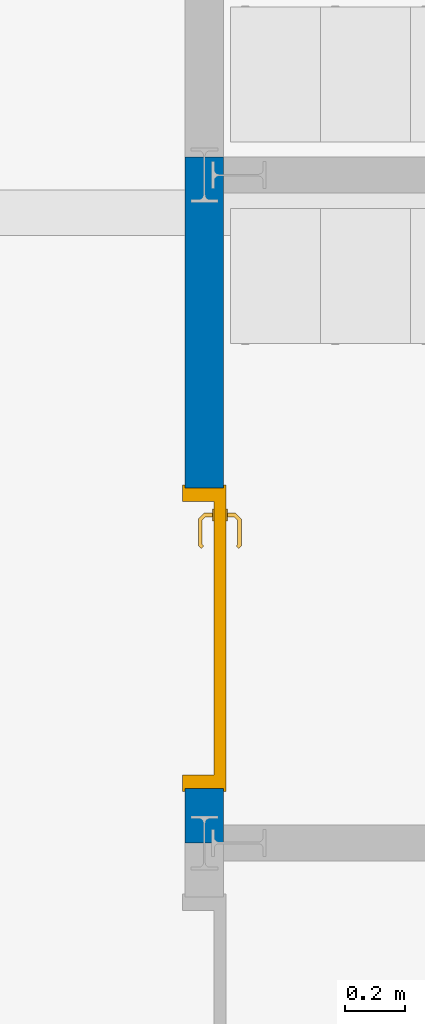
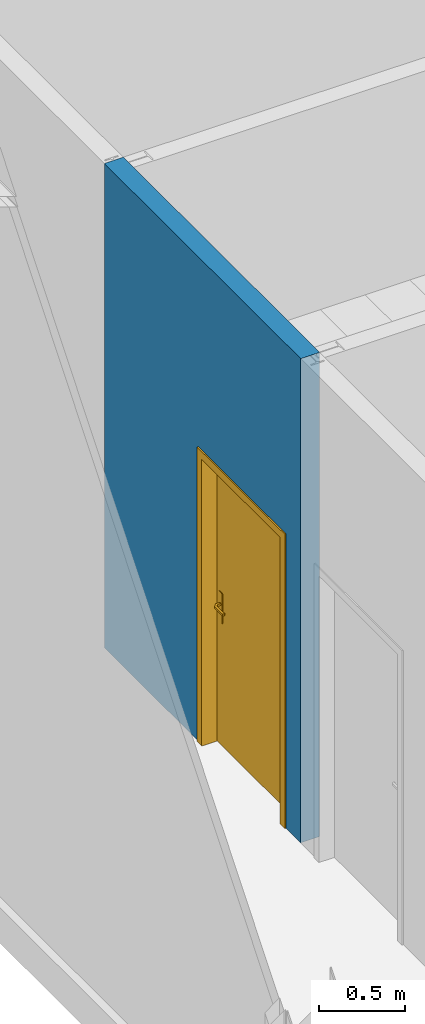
# One storey, part 49 of 137: 1 door, 1 wall, 1 opening.
"""IFC2X3 building model written with IfcOpenShell, lengths in centimetres."""

from ifc_helpers import new_model, entity, si_unit, converted_unit, derived_unit, direction, frame, frame_2d, origin, place, context, subcontext, project, spatial, rectangle, extrude, faceted_brep, source, transform, mapped, material, material_list, layer, layer_set, layer_usage, type_object, type_shapes, element, fill, save


model = new_model("IFC2X3")

# Units and contexts
model_context = context("Model", 3, precision=0.001, world=origin(), true_north=direction((6.12303176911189e-17, 1.0)))
body_context = subcontext(model_context, "Body", "Model", "MODEL_VIEW")
ifc_project = project(units=[si_unit("LENGTHUNIT", "METRE", prefix="CENTI"), si_unit("AREAUNIT", "SQUARE_METRE"), si_unit("VOLUMEUNIT", "CUBIC_METRE"), converted_unit("PLANEANGLEUNIT", "DEGREE", entity("IfcRatioMeasure", 0.0174532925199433), si_unit("PLANEANGLEUNIT", "RADIAN"), dimensions=[0, 0, 0, 0, 0, 0, 0]), si_unit("MASSUNIT", "GRAM", prefix="KILO"), si_unit("TIMEUNIT", "SECOND"), si_unit("FREQUENCYUNIT", "HERTZ"), si_unit("THERMODYNAMICTEMPERATUREUNIT", "DEGREE_CELSIUS"), derived_unit("THERMALTRANSMITTANCEUNIT", [(si_unit("MASSUNIT", "GRAM", prefix="KILO"), 1), (si_unit("THERMODYNAMICTEMPERATUREUNIT", "KELVIN"), -1), (si_unit("TIMEUNIT", "SECOND"), -3)]), derived_unit("VOLUMETRICFLOWRATEUNIT", [(si_unit("LENGTHUNIT", "METRE"), 3), (si_unit("TIMEUNIT", "SECOND"), -1)]), si_unit("ELECTRICCURRENTUNIT", "AMPERE"), si_unit("ELECTRICVOLTAGEUNIT", "VOLT"), si_unit("POWERUNIT", "WATT"), si_unit("FORCEUNIT", "NEWTON", prefix="KILO"), si_unit("ILLUMINANCEUNIT", "LUX"), si_unit("LUMINOUSFLUXUNIT", "LUMEN"), si_unit("LUMINOUSINTENSITYUNIT", "CANDELA"), derived_unit("USERDEFINED", [(si_unit("MASSUNIT", "GRAM", prefix="KILO"), -1), (si_unit("LENGTHUNIT", "METRE"), -2), (si_unit("TIMEUNIT", "SECOND"), 3), (si_unit("LUMINOUSFLUXUNIT", "LUMEN"), 1)]), derived_unit("LINEARVELOCITYUNIT", [(si_unit("LENGTHUNIT", "METRE"), 1), (si_unit("TIMEUNIT", "SECOND"), -1)]), si_unit("PRESSUREUNIT", "PASCAL"), derived_unit("USERDEFINED", [(si_unit("LENGTHUNIT", "METRE"), -2), (si_unit("MASSUNIT", "GRAM", prefix="KILO"), 1), (si_unit("TIMEUNIT", "SECOND"), -2)])], contexts=[model_context])

# Site, building, storey
site_placement = place(None, frame((8.62739174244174, -249.285249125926, 0.0)))
site = spatial("IfcSite", under=ifc_project, at=site_placement, Name="Default", CompositionType="ELEMENT")
building_placement = place(site_placement, origin())
building = spatial("IfcBuilding", under=site, at=building_placement, CompositionType="ELEMENT")
storey_placement = place(building_placement, origin())
storey = spatial("IfcBuildingStorey", under=building, at=storey_placement, Name="RDC", CompositionType="ELEMENT", Elevation=-8.82465566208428e-11)

# Wall, opening, door
ifc_material_1 = material(Name="Tôle/Doublage")
ifc_layer_1 = layer(ifc_material_1, 2.0)
ifc_material_2 = material(Name="Laine minérale")
ifc_layer_2 = layer(ifc_material_2, 9.5)
ifc_material_3 = material(Name="Plâtre_MU")
ifc_layer_3 = layer(ifc_material_3, 1.25)
ifc_layer_set = layer_set([ifc_layer_1, ifc_layer_2, ifc_layer_3], Name="Mur de base:PLA 1.25 + ISO 9.5 + MET 4")
ifc_layer_usage = layer_usage(ifc_layer_set, "AXIS2", "POSITIVE", -6.375)
wall_type = type_object("IfcWallType", Name="Mur de base:PLA 1.25 + ISO 9.5 + MET 4", PredefinedType="STANDARD", material=ifc_layer_set)
wall_placement = place(storey_placement, frame((1030.27982780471, 2380.48020806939, 0.0), z_axis=(0.0, 0.0, 1.0), x_axis=(0.0, -1.0, 0.0)))
wall = element("IfcWallStandardCase", 1, at=wall_placement, inside=storey, type_object=wall_type, material=ifc_layer_usage, Name="Mur de base:PLA 1.25 + ISO 9.5 + MET 4", ObjectType="Mur de base:PLA 1.25 + ISO 9.5 + MET 4", context=body_context, shape_type="SweptSolid", body=[
    extrude(rectangle(XDim=228.000000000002, YDim=12.7500000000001, at=frame_2d((114.000000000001, 5.41788836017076e-14), x_axis=(-1.0, 0.0))), origin(), (0.0, 0.0, 1.0), 343.000000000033),
])
opening_placement = place(wall_placement, frame((110.0, -6.37499999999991, 0.0)))
opening = element("IfcOpeningElement", 2, at=opening_placement, cuts=wall, Name="Simple(R)_bois_mu:93 x 204 cm:1", ObjectType="Opening", context=body_context, shape_type="SweptSolid", body=[
    extrude(rectangle(XDim=207.499999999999, YDim=99.9999999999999, at=frame_2d((103.749999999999, 50.0), x_axis=(1.0, 0.0))), frame((0.0, 0.0, 0.0), z_axis=(0.0, 1.0, 0.0), x_axis=(0.0, 0.0, 1.0)), (0.0, 0.0, 1.0), 12.75),
])
ifc_material_4 = material(Name="Porte - Poignée")
ifc_material_5 = material(Name="Porte - Cadre")
ifc_material_6 = material(Name="Porte - Panneau")
ifc_material_list_1 = material_list([ifc_material_4, ifc_material_5, ifc_material_6])
ifc_material_list_2 = material_list([ifc_material_4, ifc_material_5, ifc_material_6])
door_style = type_object("IfcDoorStyle", Name="93 x 204 cm", ConstructionType="NOTDEFINED", OperationType="SINGLE_SWING_LEFT", ParameterTakesPrecedence=False, Sizeable=False, material=ifc_material_list_2)
shared_shape = source(origin(), body_context, "Body", "Brep", [
    faceted_brep([(92.2025298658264, 3.69999999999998, 100.778044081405), (91.7974701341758, 3.69999999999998, 100.778044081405), (91.3999999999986, 3.69999999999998, 100.699999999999), (91.4000000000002, 3.69999999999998, 99.3000000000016), (91.7974701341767, 3.69999999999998, 99.2219559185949), (92.2025298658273, 3.69999999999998, 99.2219559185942), (92.6000000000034, 3.69999999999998, 99.2999999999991), (92.600000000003, 3.69999999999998, 100.699999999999), (91.3999999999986, 5.94852045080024, 100.699999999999), (91.3999999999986, 5.94852045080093, 99.3000000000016), (91.7974701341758, 6.11315797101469, 100.778044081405), (92.2025298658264, 6.2809392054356, 100.778044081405), (90.5838906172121, 7.89957845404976, 100.778044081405), (90.4161093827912, 7.49451872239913, 100.778044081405), (82.0793122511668, 7.49451872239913, 100.778044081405), (81.911531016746, 7.89957845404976, 100.778044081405), (81.1451046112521, 7.13315204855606, 100.778044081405), (81.4315250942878, 6.84673156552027, 100.778044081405), (92.600000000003, 6.44557672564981, 100.699999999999), (92.6000000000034, 6.44557672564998, 99.2999999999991), (92.2025298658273, 6.28093920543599, 99.2219559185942), (91.7974701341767, 6.11315797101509, 99.2219559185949), (90.4161093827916, 7.49451872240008, 99.2219559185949), (90.5838906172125, 7.8995784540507, 99.2219559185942), (81.9115310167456, 7.8995784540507, 99.2219559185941), (82.0793122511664, 7.49451872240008, 99.2219559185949), (81.4315250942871, 6.84673156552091, 99.2219559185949), (81.1451046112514, 7.13315204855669, 99.2219559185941), (90.2514718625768, 7.09704858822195, 100.699999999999), (90.2514718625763, 7.09704858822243, 99.3000000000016), (90.7485281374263, 8.29704858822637, 100.699999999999), (90.7485281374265, 8.29704858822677, 99.2999999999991), (86.247710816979, 7.09704858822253, 100.699999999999), (82.2439497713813, 7.09704858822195, 100.699999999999), (82.2439497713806, 7.09704858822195, 99.3000000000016), (86.247710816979, 7.09704858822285, 99.3000000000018), (86.2477108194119, 7.71249275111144, 100.787811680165), (85.7399422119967, 8.29704858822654, 100.699999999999), (81.7468934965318, 8.29704858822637, 100.699999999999), (86.7554791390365, 8.29704858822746, 99.2999999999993), (81.7468934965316, 8.29704858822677, 99.2999999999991), (86.2477107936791, 7.71249274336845, 99.2121883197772), (80.8640507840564, 7.41420587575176, 100.699999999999), (80.8640507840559, 7.41420587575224, 99.2999999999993), (81.7125789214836, 6.5656777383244, 99.3000000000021), (81.7125789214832, 6.56567773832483, 100.699999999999)], [[[0, 1, 2, 3, 4, 5, 6, 7]], [[8, 9, 3, 2]], [[1, 10, 8, 2]], [[1, 0, 11, 12, 13, 10]], [[14, 15, 16, 17]], [[7, 18, 11, 0]], [[18, 7, 6, 19]], [[6, 5, 20, 19]], [[5, 4, 21, 22, 23, 20]], [[24, 25, 26, 27]], [[4, 3, 9, 21]], [[28, 29, 9, 8]], [[8, 10, 13, 28]], [[18, 30, 12, 11]], [[31, 30, 18, 19]], [[19, 20, 23, 31]], [[21, 9, 29, 22]], [[29, 28, 32, 33, 34, 35]], [[36, 32, 13]], [[37, 38, 15]], [[37, 12, 30]], [[36, 12, 37]], [[14, 32, 36]], [[36, 15, 14]], [[28, 13, 32]], [[32, 14, 33]], [[12, 36, 13]], [[15, 36, 37]], [[30, 31, 39, 40, 38, 37]], [[23, 41, 39]], [[24, 39, 41]], [[39, 31, 23]], [[39, 24, 40]], [[22, 35, 41]], [[41, 23, 22]], [[41, 35, 25]], [[35, 22, 29]], [[34, 25, 35]], [[24, 41, 25]], [[17, 16, 42, 43, 27, 26, 44, 45]], [[45, 44, 34, 33]], [[33, 14, 17, 45]], [[15, 38, 42, 16]], [[43, 42, 38, 40]], [[24, 27, 43, 40]], [[34, 44, 26, 25]]]),
    faceted_brep([(91.7974701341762, -1.30000000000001, 100.778044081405), (92.2025298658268, -1.30000000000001, 100.778044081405), (92.6000000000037, -1.30000000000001, 100.699999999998), (92.6000000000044, -1.30000000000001, 99.2999999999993), (92.2025298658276, -1.30000000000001, 99.2219559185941), (91.797470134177, -1.30000000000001, 99.2219559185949), (91.3999999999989, -1.30000000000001, 99.3000000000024), (91.3999999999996, -1.30000000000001, 100.699999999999), (92.2025298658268, -3.90045754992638, 100.778044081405), (92.6000000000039, -4.06509507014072, 100.699999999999), (91.7974701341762, -3.73267631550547, 100.778044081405), (90.4298602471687, -5.10028620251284, 100.778044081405), (90.5976414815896, -5.50534593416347, 100.778044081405), (81.9142453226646, -5.50534593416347, 100.778044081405), (82.0820265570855, -5.10028620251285, 100.778044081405), (81.4342394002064, -4.4524990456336, 100.778044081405), (81.1478189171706, -4.73891952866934, 100.778044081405), (91.3999999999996, -3.56803879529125, 100.699999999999), (91.3999999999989, -3.56803879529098, 99.3000000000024), (91.797470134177, -3.7326763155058, 99.2219559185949), (92.2025298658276, -3.9004575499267, 99.2219559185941), (90.5976414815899, -5.50534593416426, 99.2219559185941), (90.429860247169, -5.10028620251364, 99.2219559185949), (82.0820265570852, -5.10028620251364, 99.2219559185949), (81.9142453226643, -5.50534593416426, 99.2219559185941), (81.14781891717, -4.73891952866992, 99.2219559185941), (81.4342394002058, -4.45249904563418, 99.2219559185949), (92.6000000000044, -4.06509507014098, 99.2999999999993), (90.762279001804, -5.90281606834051, 100.699999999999), (90.2652227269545, -4.70281606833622, 100.699999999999), (90.2652227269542, -4.70281606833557, 99.3000000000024), (90.7622790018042, -5.90281606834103, 99.2999999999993), (86.2559433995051, -5.31828027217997, 100.787811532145), (86.769230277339, -5.90281606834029, 100.699999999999), (81.7496078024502, -5.90281606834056, 100.699999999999), (86.255943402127, -4.70281606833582, 100.699999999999), (82.2466640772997, -4.70281606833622, 100.699999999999), (86.2559436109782, -4.70281606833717, 99.3000000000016), (82.2466640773, -4.70281606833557, 99.3000000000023), (86.2559434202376, -5.31828027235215, 99.2121884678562), (85.7426572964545, -5.90281606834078, 99.2999999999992), (81.74960780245, -5.90281606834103, 99.2999999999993), (81.7152932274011, -4.17144521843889, 99.3000000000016), (80.8667650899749, -5.01997335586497, 99.2999999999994), (80.8667650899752, -5.01997335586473, 100.699999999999), (81.7152932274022, -4.17144521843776, 100.699999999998)], [[[0, 1, 2, 3, 4, 5, 6, 7]], [[2, 1, 8, 9]], [[1, 0, 10, 11, 12, 8]], [[13, 14, 15, 16]], [[0, 7, 17, 10]], [[18, 17, 7, 6]], [[5, 19, 18, 6]], [[5, 4, 20, 21, 22, 19]], [[23, 24, 25, 26]], [[3, 27, 20, 4]], [[9, 27, 3, 2]], [[9, 8, 12, 28]], [[10, 17, 29, 11]], [[30, 29, 17, 18]], [[18, 19, 22, 30]], [[20, 27, 31, 21]], [[28, 31, 27, 9]], [[12, 32, 33]], [[13, 33, 32]], [[33, 28, 12]], [[33, 13, 34]], [[11, 35, 32]], [[32, 12, 11]], [[32, 35, 14]], [[35, 11, 29]], [[36, 14, 35]], [[13, 32, 14]], [[29, 30, 37, 38, 36, 35]], [[39, 37, 22]], [[40, 41, 24]], [[40, 21, 31]], [[39, 21, 40]], [[23, 37, 39]], [[39, 24, 23]], [[30, 22, 37]], [[37, 23, 38]], [[21, 39, 22]], [[24, 39, 40]], [[31, 28, 33, 34, 41, 40]], [[42, 26, 25, 43, 44, 16, 15, 45]], [[13, 16, 44, 34]], [[36, 45, 15, 14]], [[42, 45, 36, 38]], [[38, 23, 26, 42]], [[24, 41, 43, 25]], [[44, 43, 41, 34]]]),
    faceted_brep([(92.0, 3.19999999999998, 86.4641016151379), (93.0352761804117, 3.19999999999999, 86.6003983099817), (94.0, 3.19999999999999, 87.0), (94.0, 3.19999999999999, 108.0), (93.0352761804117, 3.19999999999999, 108.399601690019), (92.0, 3.19999999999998, 108.535898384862), (90.9647238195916, 3.19999999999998, 108.399601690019), (90.0, 3.19999999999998, 108.0), (90.0, 3.19999999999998, 87.0), (90.9647238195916, 3.19999999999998, 86.6003983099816), (92.0, 3.69999999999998, 108.535898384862), (93.0352761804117, 3.69999999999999, 108.399601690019), (94.0, 3.69999999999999, 108.0), (94.0, 3.69999999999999, 87.0), (93.0352761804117, 3.69999999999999, 86.6003983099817), (92.0, 3.69999999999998, 86.4641016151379), (90.9647238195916, 3.69999999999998, 86.6003983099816), (90.0, 3.69999999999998, 87.0), (90.0, 3.69999999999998, 108.0), (90.9647238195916, 3.69999999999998, 108.399601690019)], [[[0, 1, 2, 3, 4, 5, 6, 7, 8, 9]], [[10, 11, 12, 13, 14, 15, 16, 17, 18, 19]], [[6, 19, 18, 7]], [[5, 10, 19, 6]], [[4, 11, 10, 5]], [[4, 3, 12, 11]], [[12, 3, 2, 13]], [[1, 14, 13, 2]], [[0, 15, 14, 1]], [[9, 16, 15, 0]], [[9, 8, 17, 16]], [[17, 8, 7, 18]]]),
    faceted_brep([(92.0, -1.30000000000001, 86.4641016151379), (93.0352761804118, -1.30000000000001, 86.6003983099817), (94.0, -1.30000000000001, 87.0), (94.0, -1.30000000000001, 108.0), (93.0352761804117, -1.30000000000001, 108.399601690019), (92.0, -1.30000000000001, 108.535898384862), (90.9647238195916, -1.30000000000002, 108.399601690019), (90.0, -1.30000000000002, 108.0), (90.0, -1.30000000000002, 87.0), (90.9647238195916, -1.30000000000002, 86.6003983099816), (94.0, -0.800000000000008, 108.0), (94.0, -0.800000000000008, 87.0), (93.0352761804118, -0.800000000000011, 86.6003983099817), (92.0, -0.800000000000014, 86.4641016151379), (90.9647238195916, -0.800000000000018, 86.6003983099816), (90.0, -0.80000000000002, 87.0), (90.0, -0.80000000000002, 108.0), (90.9647238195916, -0.800000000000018, 108.399601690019), (92.0, -0.800000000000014, 108.535898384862), (93.0352761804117, -0.800000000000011, 108.399601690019)], [[[0, 1, 2, 3, 4, 5, 6, 7, 8, 9]], [[10, 11, 12, 13, 14, 15, 16, 17, 18, 19]], [[1, 12, 11, 2]], [[0, 13, 12, 1]], [[9, 14, 13, 0]], [[9, 8, 15, 14]], [[15, 8, 7, 16]], [[6, 17, 16, 7]], [[5, 18, 17, 6]], [[4, 19, 18, 5]], [[4, 3, 10, 19]], [[10, 3, 2, 11]]]),
    faceted_brep([(101.0, 0.0, 0.0), (102.0, 0.0, 0.0), (102.0, -0.799999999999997, 0.0), (97.5000000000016, -0.799999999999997, 0.0), (97.5000000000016, 3.2, 0.0), (96.5000000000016, 3.2, 0.0), (96.5000000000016, 13.5500000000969, 0.0), (102.0, 13.5500000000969, 0.0), (102.0, 12.750000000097, 0.0), (101.0, 12.750000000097, 0.0), (101.0, 12.750000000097, 207.499999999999), (101.0, 0.0, 207.499999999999), (102.0, 12.750000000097, 208.499999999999), (0.0, 12.750000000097, 208.499999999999), (0.0, 12.750000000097, 0.0), (1.0, 12.750000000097, 0.0), (1.0, 12.750000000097, 207.499999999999), (102.0, 13.5500000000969, 208.499999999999), (96.5000000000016, 13.5500000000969, 203.0), (5.50000000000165, 13.5500000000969, 203.0), (5.50000000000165, 13.5500000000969, 0.0), (0.0, 13.5500000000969, 0.0), (0.0, 13.5500000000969, 208.499999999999), (96.5000000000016, 3.2, 203.0), (97.5000000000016, 3.2, 204.0), (4.50000000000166, 3.2, 204.0), (4.50000000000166, 3.2, 0.0), (5.50000000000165, 3.2, 0.0), (5.50000000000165, 3.2, 203.0), (97.5000000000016, -0.799999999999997, 204.0), (102.0, -0.799999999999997, 208.499999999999), (0.0, -0.799999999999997, 208.499999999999), (0.0, -0.799999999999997, 0.0), (4.50000000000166, -0.799999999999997, 0.0), (4.50000000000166, -0.799999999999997, 204.0), (102.0, 0.0, 208.499999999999), (1.0, 0.0, 207.499999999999), (1.0, 0.0, 0.0), (0.0, 0.0, 0.0), (0.0, 0.0, 208.499999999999)], [[[0, 1, 2, 3, 4, 5, 6, 7, 8, 9]], [[9, 10, 11, 0]], [[8, 12, 13, 14, 15, 16, 10, 9]], [[7, 17, 12, 8]], [[6, 18, 19, 20, 21, 22, 17, 7]], [[5, 23, 18, 6]], [[4, 24, 25, 26, 27, 28, 23, 5]], [[3, 29, 24, 4]], [[2, 30, 31, 32, 33, 34, 29, 3]], [[1, 35, 30, 2]], [[0, 11, 36, 37, 38, 39, 35, 1]], [[16, 15, 37, 36]], [[37, 15, 14, 21, 20, 27, 26, 33, 32, 38]], [[22, 21, 14, 13]], [[28, 27, 20, 19]], [[34, 33, 26, 25]], [[39, 38, 32, 31]], [[10, 16, 36, 11]], [[17, 22, 13, 12]], [[23, 28, 19, 18]], [[29, 34, 25, 24]], [[35, 39, 31, 30]]]),
    faceted_brep([(97.5000000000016, -0.799999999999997, 204.0), (4.50000000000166, -0.799999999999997, 204.0), (4.50000000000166, -0.799999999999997, 0.0), (97.5000000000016, -0.799999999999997, 0.0), (97.5000000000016, 3.2, 204.0), (97.5000000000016, 3.2, 0.0), (4.50000000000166, 3.2, 0.0), (4.50000000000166, 3.2, 204.0)], [[[0, 1, 2, 3]], [[4, 5, 6, 7]], [[3, 5, 4, 0]], [[2, 6, 5, 3]], [[1, 7, 6, 2]], [[0, 4, 7, 1]]]),
])
type_shapes(door_style, [shared_shape])
door_placement = place(opening_placement, frame((101.0, 12.7499999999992, 0.0), z_axis=(0.0, 0.0, 1.0), x_axis=(-1.0, 0.0, 0.0)))
door = element("IfcDoor", 3, at=door_placement, inside=storey, type_object=door_style, material=ifc_material_list_1, Name="Simple(R)_bois_mu:93 x 204 cm", ObjectType="93 x 204 cm", OverallHeight=207.499999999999, OverallWidth=99.9999999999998, context=body_context, shape_type="MappedRepresentation", body=[
    mapped(shared_shape, transform((0.0, 0.0, 0.0), scale=1.0)),
])
fill(opening, door)

save(model, "model.ifc")
